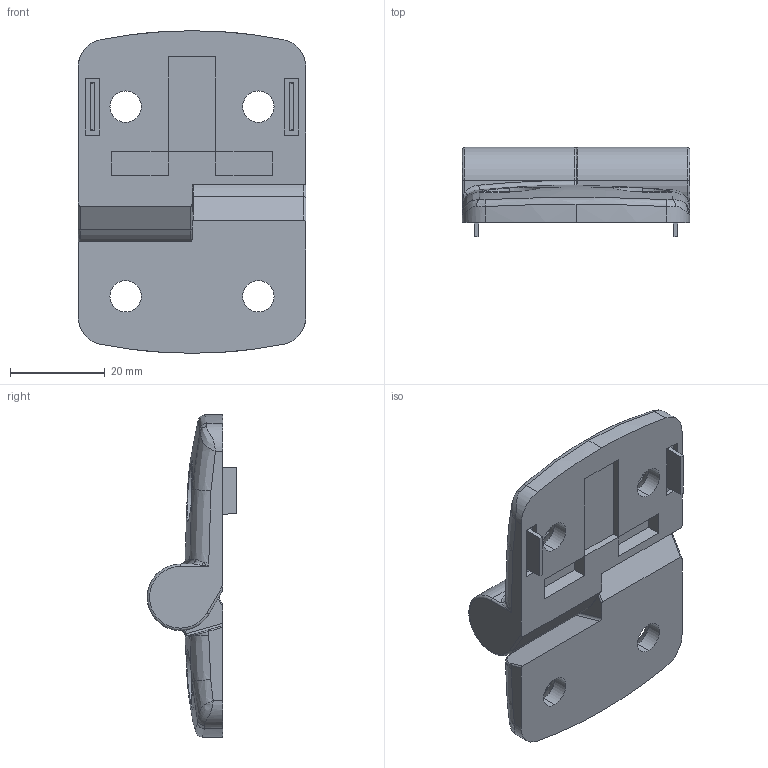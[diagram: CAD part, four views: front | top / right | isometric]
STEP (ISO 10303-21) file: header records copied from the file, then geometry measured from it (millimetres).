
FILE_DESCRIPTION(('STEP AP214'),'1');
FILE_NAME('C:/TPO v2/SharedFS/Outgoing/fath_095k3030r00.stp','2016-08-26T08:16:45',('TraceParts'),('TraceParts S.A.'),'Spatial InterOp 3D',' ',' ');
FILE_SCHEMA(('automotive_design'));
Length unit declared in the file: millimetre
Products named in the file (3): fath_095k3030r00_1; fath_095k3030r00_2; fath_095k3030r00_3
Bounding box: 48 x 18.9 x 68 mm (x, y, z)
Volume: 22641.3 mm3; surface area: 11294.4 mm2
Topology: 3 solids, 3 shells, 167 faces, 408 edges, 248 vertices
Faces by surface type: plane 55, cylinder 49, bspline 37, torus 14, cone 12
Entity records: 8345 total; most frequent: CARTESIAN_POINT 3364, ORIENTED_EDGE 804, DIRECTION 651, EDGE_CURVE 402, VERTEX_POINT 248, AXIS2_PLACEMENT_3D 242, EDGE_LOOP 182, STYLED_ITEM 170
